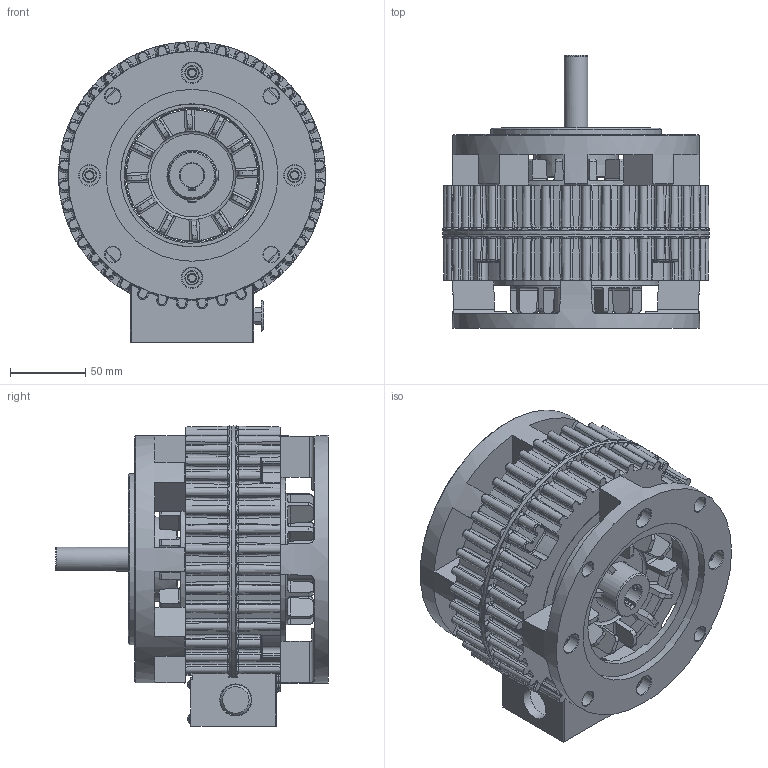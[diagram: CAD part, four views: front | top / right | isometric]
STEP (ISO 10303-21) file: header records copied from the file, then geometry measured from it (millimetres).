
FILE_DESCRIPTION(/* description */ ('STEP AP214'),/* implementation_level */ '2;1');
FILE_NAME(/* name */ '7MC90C_stp.step',/* time_stamp */ '2026-05-12T14:48:45-05:00',/* author */ (''),/* organization */ (''),/* preprocessor_version */ 'ST-DEVELOPER v20.1',/* originating_system */ 'Autodesk Translation Framework v15.8.0.0',/* authorisation */ '');
FILE_SCHEMA (('AUTOMOTIVE_DESIGN { 1 0 10303 214 3 1 1 }'));
Products named in the file (1): 7MC90C_asm_stp
Bounding box: 177.71 x 181.69 x 200.01 mm (x, y, z)
Volume: 1688974.1 mm3; surface area: 381033.3 mm2
Topology: 4 solids, 23 shells, 2302 faces, 5779 edges, 3494 vertices
Faces by surface type: plane 717, cylinder 585, torus 375, cone 238, bspline 227, sphere 160
Full cylindrical faces by diameter (mm): 1.321 x2, 1.981 x2, 2.261 x4, 2.845 x4, 3.734 x4, 5.105 x9, 5.563 x4, 6.35 x10, 7.144 x8, 7.938 x4, 9.525 x8, 10.319 x4, 13.494 x8, 15.875 x1, 18.618 x1, 20.008 x3, 21.336 x2, 26.153 x4, 26.703 x2, 28.575 x2, 31.75 x1, 33.337 x1, 36.512 x1, 37.38 x4, 38.1 x1, 41.961 x4, 44.577 x2, 47.65 x1, 52.375 x1, 72.263 x1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
Entity records: 77485 total; most frequent: CARTESIAN_POINT 22319, DIRECTION 12353, ORIENTED_EDGE 11466, EDGE_CURVE 5733, AXIS2_PLACEMENT_3D 5243, VERTEX_POINT 3494, CIRCLE 2646, EDGE_LOOP 2451
